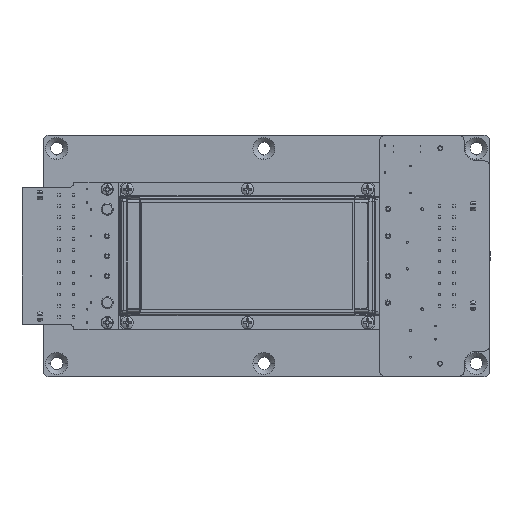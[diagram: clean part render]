
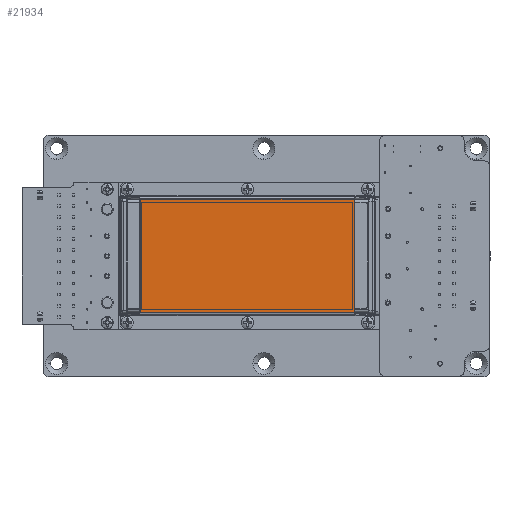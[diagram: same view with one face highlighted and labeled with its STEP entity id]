
A CAD part, top view. The second image highlights one B-rep face of the part: STEP entity #21934.
In plain terms, the highlighted planar face has unit normal (0, 0, 1).
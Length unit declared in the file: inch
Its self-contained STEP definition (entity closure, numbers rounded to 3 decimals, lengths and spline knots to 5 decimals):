
#8376 = CARTESIAN_POINT ( 'NONE',  ( -5.23882, -0.85251, 0.72451 ) ) ;
#8395 = CARTESIAN_POINT ( 'NONE',  ( -2.02922, -0.85251, 0.72451 ) ) ;
#8657 = CARTESIAN_POINT ( 'NONE',  ( -2.02922, 0.85259, 0.72451 ) ) ;
#8667 = CARTESIAN_POINT ( 'NONE',  ( -5.23882, 0.85259, 0.72451 ) ) ;
#21934 = ADVANCED_FACE ( 'NONE', ( #54348 ), #53751, .T. ) ;
#53751 = PLANE ( 'NONE',  #98109 ) ;
#53753 = CARTESIAN_POINT ( 'NONE',  ( -3.04928, 0.13083, 0.72451 ) ) ;
#53754 = DIRECTION ( 'NONE',  ( 0., 0., 1. ) ) ;
#53755 = DIRECTION ( 'NONE',  ( -1., 0., 0. ) ) ;
#54348 = FACE_OUTER_BOUND ( 'NONE', #143694, .T. ) ;
#98109 = AXIS2_PLACEMENT_3D ( 'NONE', #53753, #53754, #53755 ) ;
#131550 = EDGE_CURVE ( 'NONE', #137197, #137020, #154077, .T. ) ;
#131551 = EDGE_CURVE ( 'NONE', #137020, #136975, #154078, .T. ) ;
#131552 = EDGE_CURVE ( 'NONE', #137203, #137197, #154079, .T. ) ;
#131553 = EDGE_CURVE ( 'NONE', #136975, #137203, #154080, .T. ) ;
#136953 = ORIENTED_EDGE ( 'NONE', *, *, #131551, .F. ) ;
#136956 = ORIENTED_EDGE ( 'NONE', *, *, #131552, .F. ) ;
#136959 = ORIENTED_EDGE ( 'NONE', *, *, #131550, .F. ) ;
#136961 = ORIENTED_EDGE ( 'NONE', *, *, #131553, .F. ) ;
#136975 = VERTEX_POINT ( 'NONE', #8376 ) ;
#137020 = VERTEX_POINT ( 'NONE', #8395 ) ;
#137197 = VERTEX_POINT ( 'NONE', #8657 ) ;
#137203 = VERTEX_POINT ( 'NONE', #8667 ) ;
#143694 = EDGE_LOOP ( 'NONE', ( #136953, #136959, #136956, #136961 ) ) ;
#154077 = LINE ( 'NONE', #168072, #169178 ) ;
#154078 = LINE ( 'NONE', #168074, #169180 ) ;
#154079 = LINE ( 'NONE', #168076, #169181 ) ;
#154080 = LINE ( 'NONE', #168078, #169183 ) ;
#168072 = CARTESIAN_POINT ( 'NONE',  ( -2.02922, -0.85251, 0.72451 ) ) ;
#168073 = DIRECTION ( 'NONE',  ( 0., -1., 0. ) ) ;
#168074 = CARTESIAN_POINT ( 'NONE',  ( -5.23882, -0.85251, 0.72451 ) ) ;
#168075 = DIRECTION ( 'NONE',  ( -1., 0., 0. ) ) ;
#168076 = CARTESIAN_POINT ( 'NONE',  ( -2.02922, 0.85259, 0.72451 ) ) ;
#168077 = DIRECTION ( 'NONE',  ( 1., 0., 0. ) ) ;
#168078 = CARTESIAN_POINT ( 'NONE',  ( -5.23882, 0.85259, 0.72451 ) ) ;
#168079 = DIRECTION ( 'NONE',  ( 0., 1., 0. ) ) ;
#169178 = VECTOR ( 'NONE', #168073, 39.37008 ) ;
#169180 = VECTOR ( 'NONE', #168075, 39.37008 ) ;
#169181 = VECTOR ( 'NONE', #168077, 39.37008 ) ;
#169183 = VECTOR ( 'NONE', #168079, 39.37008 ) ;
